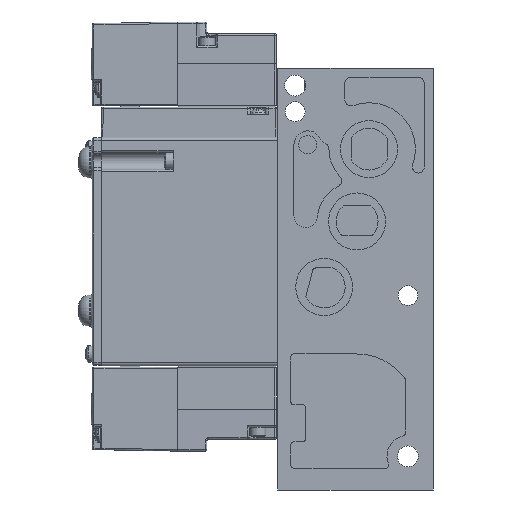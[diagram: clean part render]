
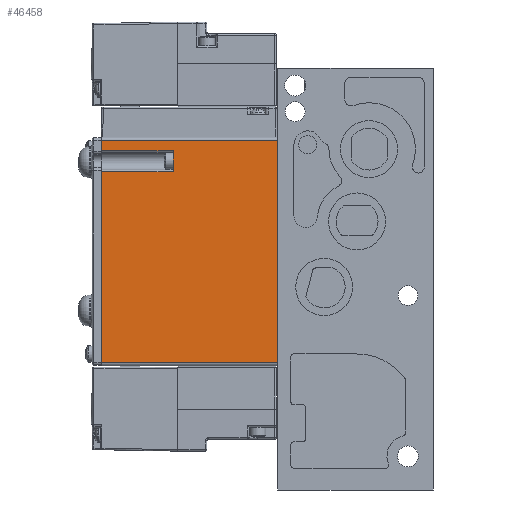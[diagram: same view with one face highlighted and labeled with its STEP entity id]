
A CAD part, left-side view. The second image highlights one B-rep face of the part: STEP entity #46458.
In plain terms, the highlighted planar face has unit normal (-1, 0, 0).
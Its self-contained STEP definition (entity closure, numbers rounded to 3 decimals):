
#347 = ORIENTED_EDGE ( 'NONE', *, *, #4562, .T. ) ;
#748 = DIRECTION ( 'NONE',  ( 0., 0., -1. ) ) ;
#2121 = CARTESIAN_POINT ( 'NONE',  ( -12., 59., 38.25 ) ) ;
#2603 = CARTESIAN_POINT ( 'NONE',  ( -12., 59., 37.25 ) ) ;
#3451 = VECTOR ( 'NONE', #748, 1000. ) ;
#4014 = EDGE_CURVE ( 'NONE', #71860, #38775, #35109, .T. ) ;
#4284 = CARTESIAN_POINT ( 'NONE',  ( -12., 35., 26.75 ) ) ;
#4562 = EDGE_CURVE ( 'NONE', #7520, #45708, #31446, .T. ) ;
#7520 = VERTEX_POINT ( 'NONE', #86375 ) ;
#9091 = EDGE_LOOP ( 'NONE', ( #50841, #347, #94125, #80030, #41399, #21230, #91540, #30224 ) ) ;
#9613 = DIRECTION ( 'NONE',  ( 0., 0., 1. ) ) ;
#10063 = CARTESIAN_POINT ( 'NONE',  ( -12., 35., 26.75 ) ) ;
#12607 = LINE ( 'NONE', #20257, #50200 ) ;
#14020 = DIRECTION ( 'NONE',  ( 0., -1., 0. ) ) ;
#16804 = PLANE ( 'NONE',  #53723 ) ;
#17795 = VECTOR ( 'NONE', #68266, 1000. ) ;
#19557 = CARTESIAN_POINT ( 'NONE',  ( -12., 0., 37.25 ) ) ;
#20257 = CARTESIAN_POINT ( 'NONE',  ( -12., 59., 38.25 ) ) ;
#21230 = ORIENTED_EDGE ( 'NONE', *, *, #22057, .F. ) ;
#22057 = EDGE_CURVE ( 'NONE', #38775, #56725, #40677, .T. ) ;
#23068 = CARTESIAN_POINT ( 'NONE',  ( -12., 0., 38.25 ) ) ;
#23400 = LINE ( 'NONE', #23068, #3451 ) ;
#23492 = CARTESIAN_POINT ( 'NONE',  ( -12., 59., 37.25 ) ) ;
#29628 = DIRECTION ( 'NONE',  ( 0., 0., 1. ) ) ;
#29845 = DIRECTION ( 'NONE',  ( 0., 1., 0. ) ) ;
#30224 = ORIENTED_EDGE ( 'NONE', *, *, #88428, .T. ) ;
#31446 = LINE ( 'NONE', #95567, #88575 ) ;
#35109 = LINE ( 'NONE', #51836, #92155 ) ;
#35993 = CARTESIAN_POINT ( 'NONE',  ( -12., 35., 33.75 ) ) ;
#37032 = CARTESIAN_POINT ( 'NONE',  ( -12., 0., -37.25 ) ) ;
#38775 = VERTEX_POINT ( 'NONE', #35993 ) ;
#38830 = LINE ( 'NONE', #50885, #58669 ) ;
#40677 = LINE ( 'NONE', #82004, #58175 ) ;
#41399 = ORIENTED_EDGE ( 'NONE', *, *, #78833, .F. ) ;
#45708 = VERTEX_POINT ( 'NONE', #37032 ) ;
#46458 = ADVANCED_FACE ( 'NONE', ( #70289 ), #16804, .T. ) ;
#50200 = VECTOR ( 'NONE', #72477, 1000. ) ;
#50841 = ORIENTED_EDGE ( 'NONE', *, *, #89253, .F. ) ;
#50885 = CARTESIAN_POINT ( 'NONE',  ( -12., 59., 38.25 ) ) ;
#51836 = CARTESIAN_POINT ( 'NONE',  ( -12., 35., 26.75 ) ) ;
#53509 = VERTEX_POINT ( 'NONE', #19557 ) ;
#53723 = AXIS2_PLACEMENT_3D ( 'NONE', #2121, #54498, #9613 ) ;
#54498 = DIRECTION ( 'NONE',  ( -1., 0., 0. ) ) ;
#56696 = LINE ( 'NONE', #10063, #76416 ) ;
#56725 = VERTEX_POINT ( 'NONE', #73493 ) ;
#58175 = VECTOR ( 'NONE', #29845, 1000. ) ;
#58669 = VECTOR ( 'NONE', #65874, 1000. ) ;
#59963 = EDGE_CURVE ( 'NONE', #53509, #87585, #94818, .T. ) ;
#60198 = CARTESIAN_POINT ( 'NONE',  ( -12., 59., 26.75 ) ) ;
#62828 = EDGE_CURVE ( 'NONE', #53509, #45708, #23400, .T. ) ;
#65874 = DIRECTION ( 'NONE',  ( 0., 0., 1. ) ) ;
#68266 = DIRECTION ( 'NONE',  ( 0., 1., 0. ) ) ;
#70289 = FACE_OUTER_BOUND ( 'NONE', #9091, .T. ) ;
#70658 = VERTEX_POINT ( 'NONE', #60198 ) ;
#71860 = VERTEX_POINT ( 'NONE', #4284 ) ;
#72477 = DIRECTION ( 'NONE',  ( 0., 0., 1. ) ) ;
#73493 = CARTESIAN_POINT ( 'NONE',  ( -12., 59., 33.75 ) ) ;
#76416 = VECTOR ( 'NONE', #84851, 1000. ) ;
#78833 = EDGE_CURVE ( 'NONE', #56725, #87585, #12607, .T. ) ;
#80030 = ORIENTED_EDGE ( 'NONE', *, *, #59963, .T. ) ;
#82004 = CARTESIAN_POINT ( 'NONE',  ( -12., 35., 33.75 ) ) ;
#84851 = DIRECTION ( 'NONE',  ( 0., 1., 0. ) ) ;
#86375 = CARTESIAN_POINT ( 'NONE',  ( -12., 59., -37.25 ) ) ;
#87585 = VERTEX_POINT ( 'NONE', #2603 ) ;
#88428 = EDGE_CURVE ( 'NONE', #71860, #70658, #56696, .T. ) ;
#88575 = VECTOR ( 'NONE', #14020, 1000. ) ;
#89253 = EDGE_CURVE ( 'NONE', #7520, #70658, #38830, .T. ) ;
#91540 = ORIENTED_EDGE ( 'NONE', *, *, #4014, .F. ) ;
#92155 = VECTOR ( 'NONE', #29628, 1000. ) ;
#94125 = ORIENTED_EDGE ( 'NONE', *, *, #62828, .F. ) ;
#94818 = LINE ( 'NONE', #23492, #17795 ) ;
#95567 = CARTESIAN_POINT ( 'NONE',  ( -12., 0., -37.25 ) ) ;
